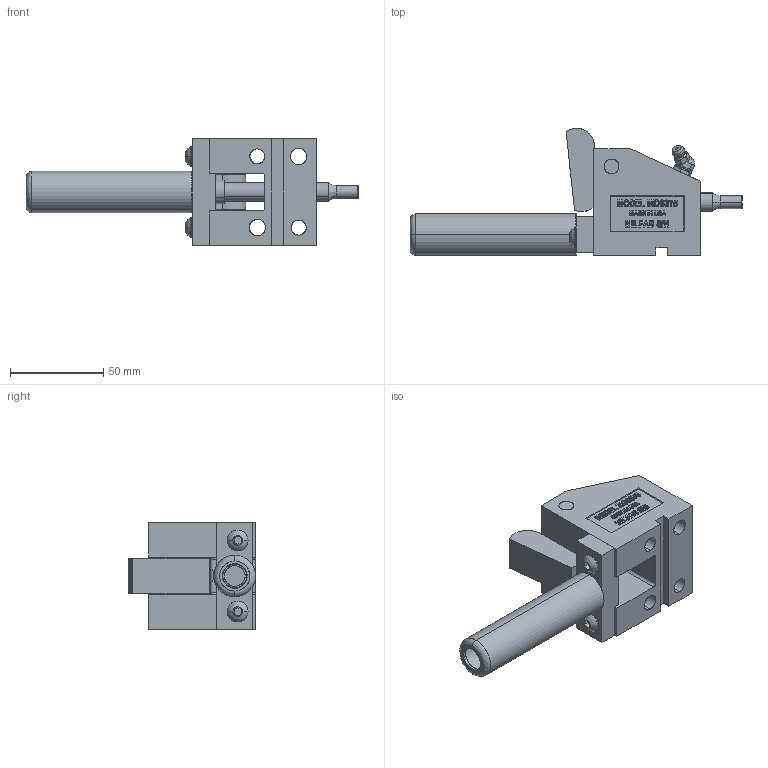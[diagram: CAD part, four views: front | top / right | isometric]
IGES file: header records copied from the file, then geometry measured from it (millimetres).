
Start section: SolidWorks IGES file using analytic representation for surfaces
Global section: file name: Y:\JIM SOLIDWORKS\ENGDESIGN-W-SOLIDWORKS\PROJECTS\MOS375-O\MOS375-O.IGS; native system: SolidWorks 2006 by SolidWorks Corporation; preprocessor: SolidWorks 2006 by SolidWorks Corporation; author: Jim; date: 081225.195256; units: inch
Bounding box: 177.8 x 68.01 x 57.15 mm (x, y, z)
Surface area: 55197.5 mm2 (no closed solid volume)
Topology: 0 solids, 0 shells, 599 faces, 7590 edges, 7588 vertices
Faces by surface type: bspline 480, revolution 119
